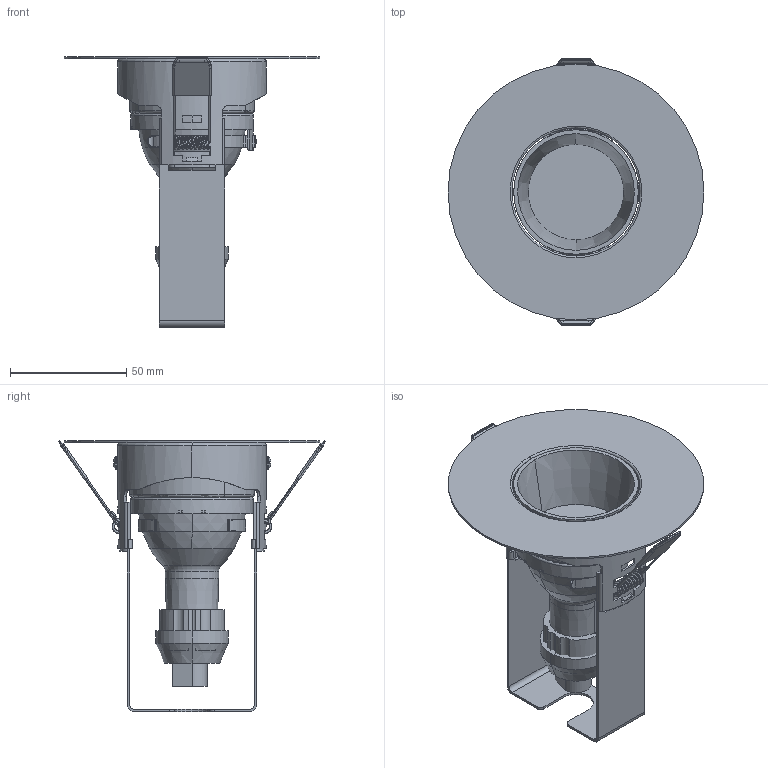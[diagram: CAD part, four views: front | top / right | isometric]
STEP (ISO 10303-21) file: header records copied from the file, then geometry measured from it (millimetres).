
FILE_DESCRIPTION((''),'2;1');
FILE_NAME('TC44013_ASM','2025-10-20T10:22:10',('Administrator'),(''),'CREO PARAMETRIC BY PTC INC, 2018100','CREO PARAMETRIC BY PTC INC, 2018100','');
FILE_SCHEMA(('CONFIG_CONTROL_DESIGN','SHAPE_APPEARANCE_LAYERS_GROUPS'));
Products named in the file (19): W0629-1; W0629-2; W0627; P0189; F0141; W0201; P0190; P0069; 36-TOUJING_ANY_1_1_SZ__01; GU10-TONGZHEN_ANY4_5_SZ_1_01; M450ST-Q1-P-01A_1_SZ_1_01; M450ST-Q1-P-05A_ANY_10_1_SZ_01; GU10_ASM_1_ASM_01_ASM; SJ0555; DENGTOU_1_03_2_01; HEISEDT_2_01; RSTG_4_01; LONGMENJIA-GUKT_5_01; TC44013_ASM
Assembly tree (22 placements, depth 3):
  TC44013_ASM
    W0629-1
    W0629-2
    W0627
    P0189  x2
    F0141
    W0201
    P0190
    P0069  x2
    GU10_ASM_1_ASM_01_ASM
      36-TOUJING_ANY_1_1_SZ__01
      GU10-TONGZHEN_ANY4_5_SZ_1_01  x2
      M450ST-Q1-P-01A_1_SZ_1_01
      M450ST-Q1-P-05A_ANY_10_1_SZ_01
    SJ0555
    DENGTOU_1_03_2_01
    HEISEDT_2_01
    RSTG_4_01  x2
    LONGMENJIA-GUKT_5_01
Bounding box: 110 x 114.53 x 116.51 mm (x, y, z)
Volume: 60904.5 mm3; surface area: 105160 mm2
Topology: 20 solids, 26 shells, 2000 faces, 5556 edges, 3704 vertices
Faces by surface type: plane 726, cylinder 618, torus 405, bspline 122, cone 81, revolution 32, sphere 9, extrusion 7
Entity records: 77206 total; most frequent: CARTESIAN_POINT 22445, ORIENTED_EDGE 10521, DIRECTION 10321, EDGE_CURVE 5269, AXIS2_PLACEMENT_3D 4061, VERTEX_POINT 3525, CIRCLE 2269, VECTOR 2167
